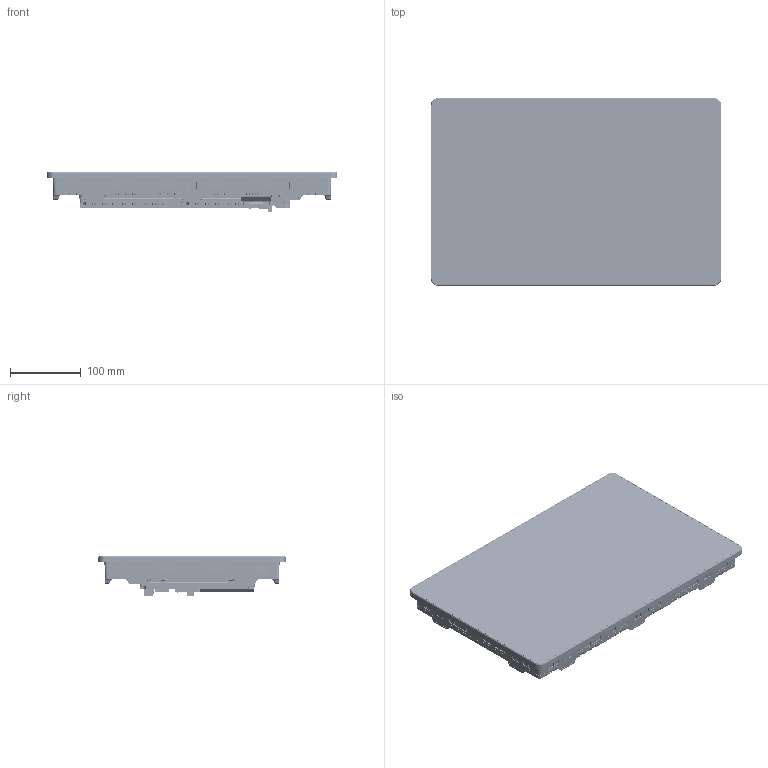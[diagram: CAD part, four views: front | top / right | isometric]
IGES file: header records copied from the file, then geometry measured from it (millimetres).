
Start section: SolidWorks IGES file using analytic representation for surfaces
Global section: file name: Z:\Products\UniStream\Unistream 15.6\Design\REV01\CAD FILES\US15-XXX-XX\US15-xx-xxx_UniStream 15.6_3D\US15-xx-xxx_UniStream 15.6_3D.IGS; native system: SolidWorks 2022; preprocessor: SolidWorks 2022; author: OfirZ; date: 240530.140538; units: millimetre
Bounding box: 411.09 x 265.09 x 56.9 mm (x, y, z)
Surface area: 459245.1 mm2 (no closed solid volume)
Topology: 0 solids, 0 shells, 7277 faces, 57020 edges, 57012 vertices
Faces by surface type: bspline 5251, revolution 2026
